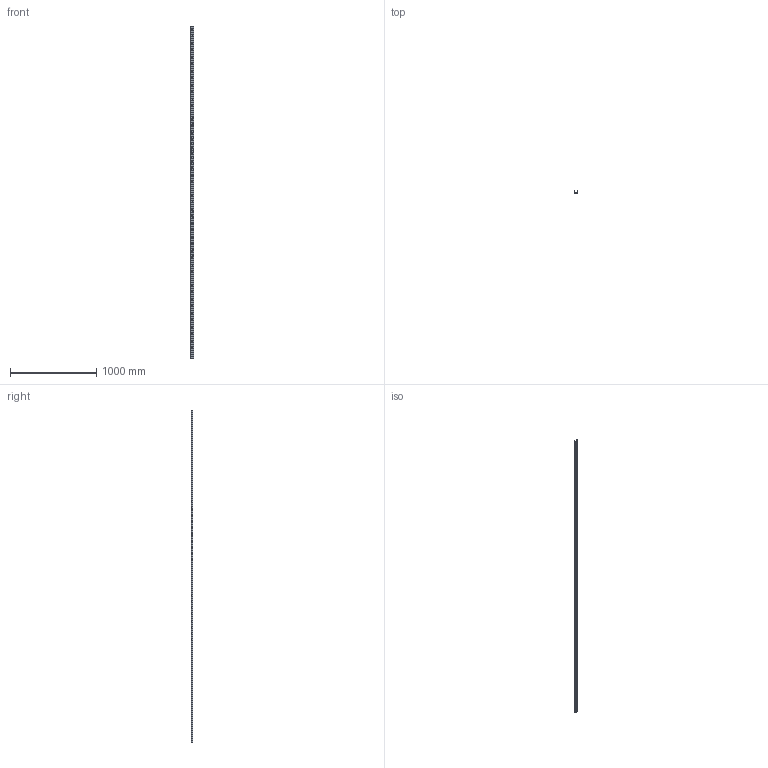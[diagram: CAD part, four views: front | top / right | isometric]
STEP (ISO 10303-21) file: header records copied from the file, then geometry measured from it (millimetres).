
FILE_DESCRIPTION(('STEP AP214'),'1');
FILE_NAME('rail_tex40-3840.stp','2019-03-08T08:34:29',('TraceParts'),('TraceParts S.A.'),'Spatial InterOp 3D',' ',' ');
FILE_SCHEMA(('automotive_design'));
Length unit declared in the file: millimetre
Products named in the file (1): rail_tex40-3840
Bounding box: 39.53 x 21 x 3840 mm (x, y, z)
Volume: 750799.3 mm3; surface area: 528662.7 mm2
Topology: 1 solids, 1 shells, 806 faces, 2088 edges, 1392 vertices
Faces by surface type: plane 566, bspline 132, cylinder 108
Entity records: 51233 total; most frequent: CARTESIAN_POINT 25491, ORIENTED_EDGE 4176, DIRECTION 3390, EDGE_CURVE 2088, LINE 1608, VECTOR 1608, VERTEX_POINT 1392, EDGE_LOOP 1010
